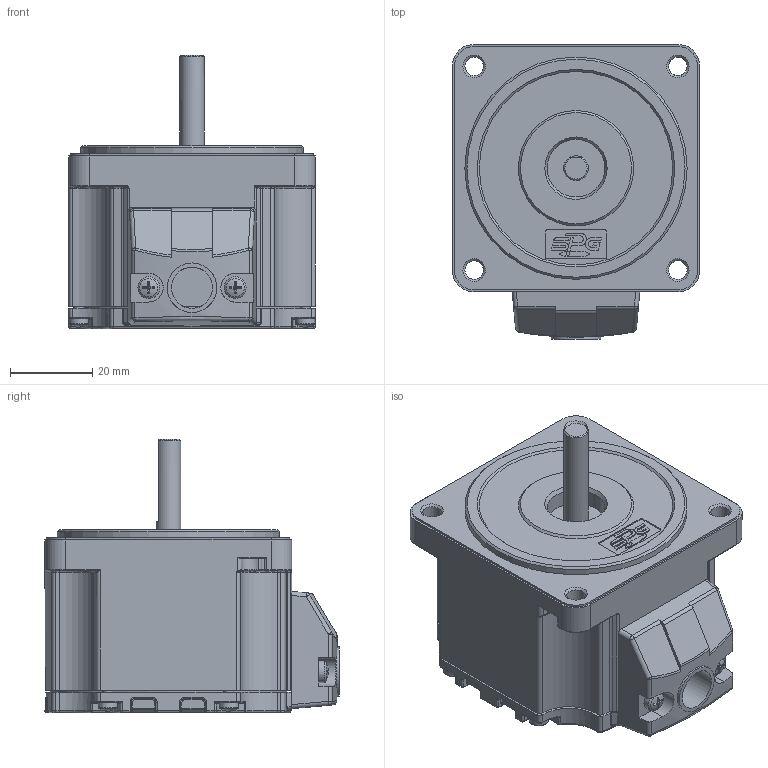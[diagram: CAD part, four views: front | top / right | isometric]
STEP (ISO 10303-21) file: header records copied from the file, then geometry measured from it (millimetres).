
FILE_DESCRIPTION((''),'2;1');
FILE_NAME('C:\Documents and Settings\Administrator\바탕 화면\BLDC 3D FILE\GEAR HEAD ASS''Y\60\MOTOR\60\60-D TYPE.stp','2014-06-19T12:50:42',('kdhkdh'),(''),'Autodesk Inventor 2011','Autodesk Inventor 2011','');
FILE_SCHEMA(('AUTOMOTIVE_DESIGN { 1 0 10303 214 1 1 1 1 }'));
Length unit declared in the file: millimetre
Products named in the file (1): 부품6
Bounding box: 60 x 71.5 x 66.5 mm (x, y, z)
Volume: 141541.3 mm3; surface area: 26814.8 mm2
Topology: 1 solids, 4 shells, 827 faces, 2057 edges, 1225 vertices
Faces by surface type: cylinder 281, plane 217, torus 131, bspline 95, cone 83, sphere 20
Full cylindrical faces by diameter (mm): 2.256 x4, 2.5 x4, 2.6 x4, 2.729 x2, 3 x6, 3.5 x2, 4.5 x4, 4.7 x4, 5.3 x2, 6 x1, 10 x1, 12 x1, 14 x1, 46 x1, 54 x1, 57.5 x2
Entity records: 26773 total; most frequent: CARTESIAN_POINT 7772, DIRECTION 4087, ORIENTED_EDGE 3820, EDGE_CURVE 1910, AXIS2_PLACEMENT_3D 1698, VERTEX_POINT 1192, EDGE_LOOP 947, CIRCLE 881
